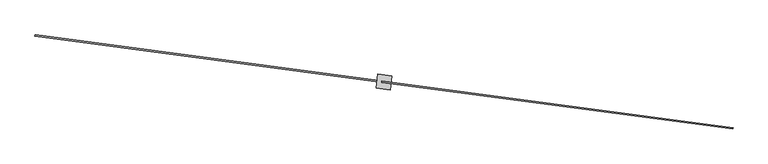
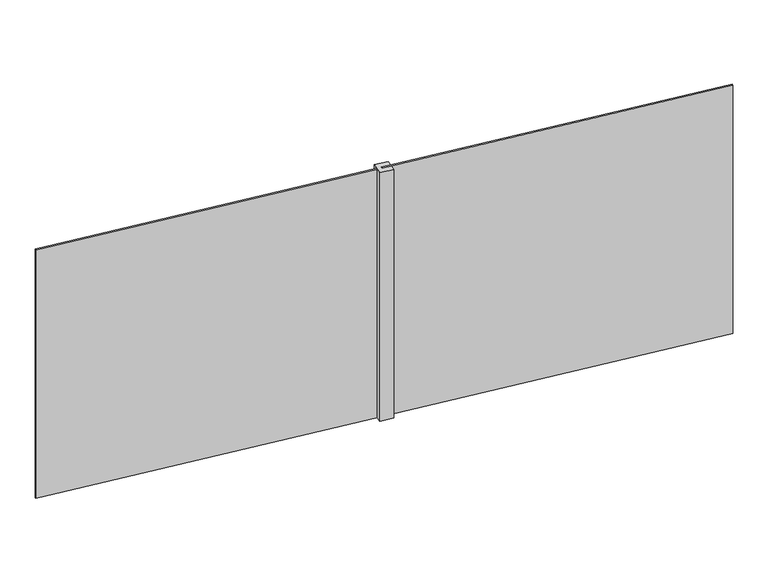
"""IFC4 building model written with IfcOpenShell, lengths in millimetres: railing geometry, REJA_PERIMETRAL_S-PILAR_2000mm."""

from ifc_helpers import new_model, si_unit, frame, origin, place, context, project, spatial, polyline, outline, extrude, source, transform, mapped, element, save


def railing_fcdaff37(model_context):
    return source(origin(), model_context, "Body", "SweptSolid", [
        extrude(outline(polyline([(-21327.8852688, -17675.8724322), (-18849.8289385, -18006.3823773), (-18851.1509782, -18016.2946027), (-21329.2073085, -17685.7846575), (-21327.8852688, -17675.8724322)])), frame((0.0, 0.0, -850.0), z_axis=(0.0, 0.0, 1.0), x_axis=(1.0, 0.0, 0.0)), (0.0, 0.0, 1.0), 2000.0),
        extrude(outline(polyline([(-21355.3898502, -17626.805534), (-21256.267597, -17640.0259318), (-21269.4879948, -17739.148185), (-21368.610248, -17725.9277872), (-21355.3898502, -17626.805534)])), frame((0.0, 0.0, -850.0), z_axis=(0.0, 0.0, 1.0), x_axis=(1.0, 0.0, 0.0)), (0.0, 0.0, 1.0), 2000.0),
        extrude(outline(polyline([(-23773.7268668, -17349.6591164), (-21295.6705365, -17680.1690615), (-21296.9925762, -17690.0812868), (-23775.0489066, -17359.5713417), (-23773.7268668, -17349.6591164)])), frame((0.0, 0.0, -850.0), z_axis=(0.0, 0.0, 1.0), x_axis=(1.0, 0.0, 0.0)), (0.0, 0.0, 1.0), 2000.0),
    ])


if __name__ == "__main__":
    model = new_model("IFC4")
    model_context = context("Model", 3, world=origin())
    ifc_project = project(units=[si_unit("LENGTHUNIT", "METRE", prefix="MILLI")], contexts=[model_context])
    site = spatial("IfcSite", under=ifc_project)
    building = spatial("IfcBuilding", under=site)
    placement = place(None, origin())
    railing_shape = railing_fcdaff37(model_context)
    element("IfcRailing", 1, ObjectType="REJA_PERIMETRAL_S-PILAR_2000mm", at=placement, inside=building, context=model_context, shape_type="MappedRepresentation", body=[
        mapped(railing_shape, transform((0.0, 0.0, 0.0), x_axis=(1.0, 0.0, 0.0), y_axis=(0.0, 1.0, 0.0), z_axis=(0.0, 0.0, 1.0))),
    ])
    save(model, "model.ifc")
